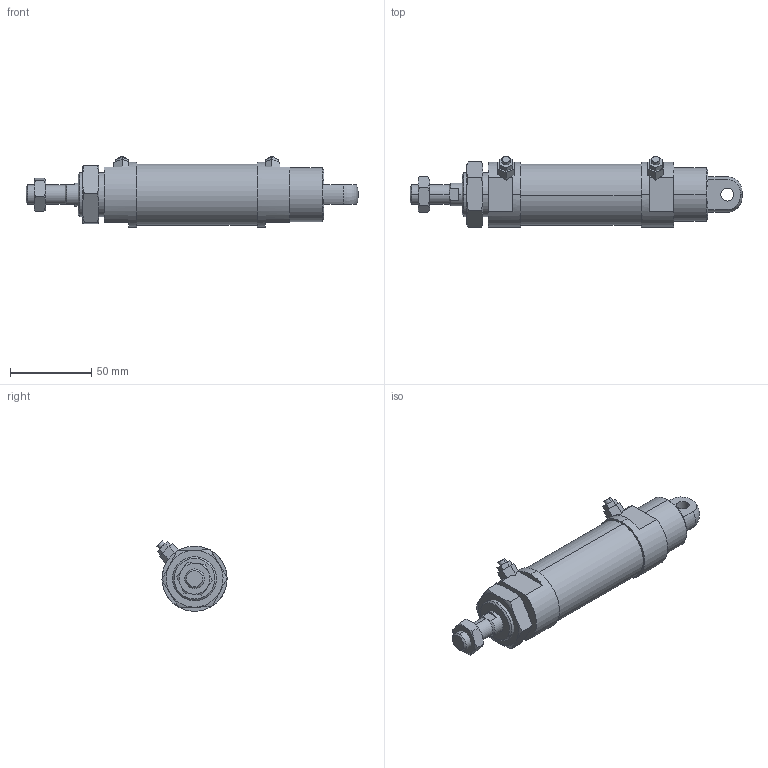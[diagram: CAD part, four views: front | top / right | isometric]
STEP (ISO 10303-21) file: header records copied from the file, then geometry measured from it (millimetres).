
FILE_DESCRIPTION (( 'STEP AP203' ), '1' );
FILE_NAME ('JG2-32-25-C.STEP', '2016-04-19T00:50:01', ( '' ), ( '' ), 'SwSTEP 2.0', 'SolidWorks 2014', '' );
FILE_SCHEMA (( 'CONFIG_CONTROL_DESIGN' ));
Length unit declared in the file: millimetre
Products named in the file (6): M27x2-10mm; JG2-32B; JG2-32C; 32-25; M12x1.25-7mm; JG2-32-25-C
Assembly tree (5 placements, depth 2):
  JG2-32-25-C
    JG2-32B
    32-25
    JG2-32C
    M12x1.25-7mm
    M27x2-10mm
Bounding box: 204 x 43.53 x 43.33 mm (x, y, z)
Volume: 170657 mm3; surface area: 32932 mm2
Topology: 5 solids, 5 shells, 138 faces, 322 edges, 200 vertices
Faces by surface type: plane 70, cylinder 30, torus 26, cone 12
Entity records: 5068 total; most frequent: CARTESIAN_POINT 1352, DIRECTION 648, ORIENTED_EDGE 636, EDGE_CURVE 318, AXIS2_PLACEMENT_3D 252, VERTEX_POINT 200, EDGE_LOOP 154, VECTOR 144
